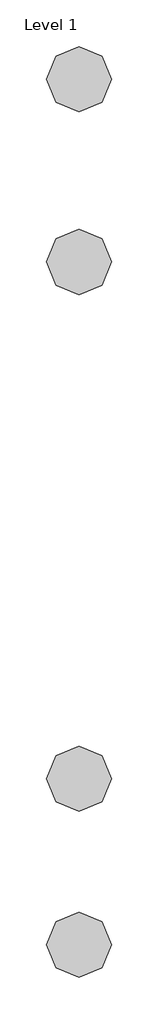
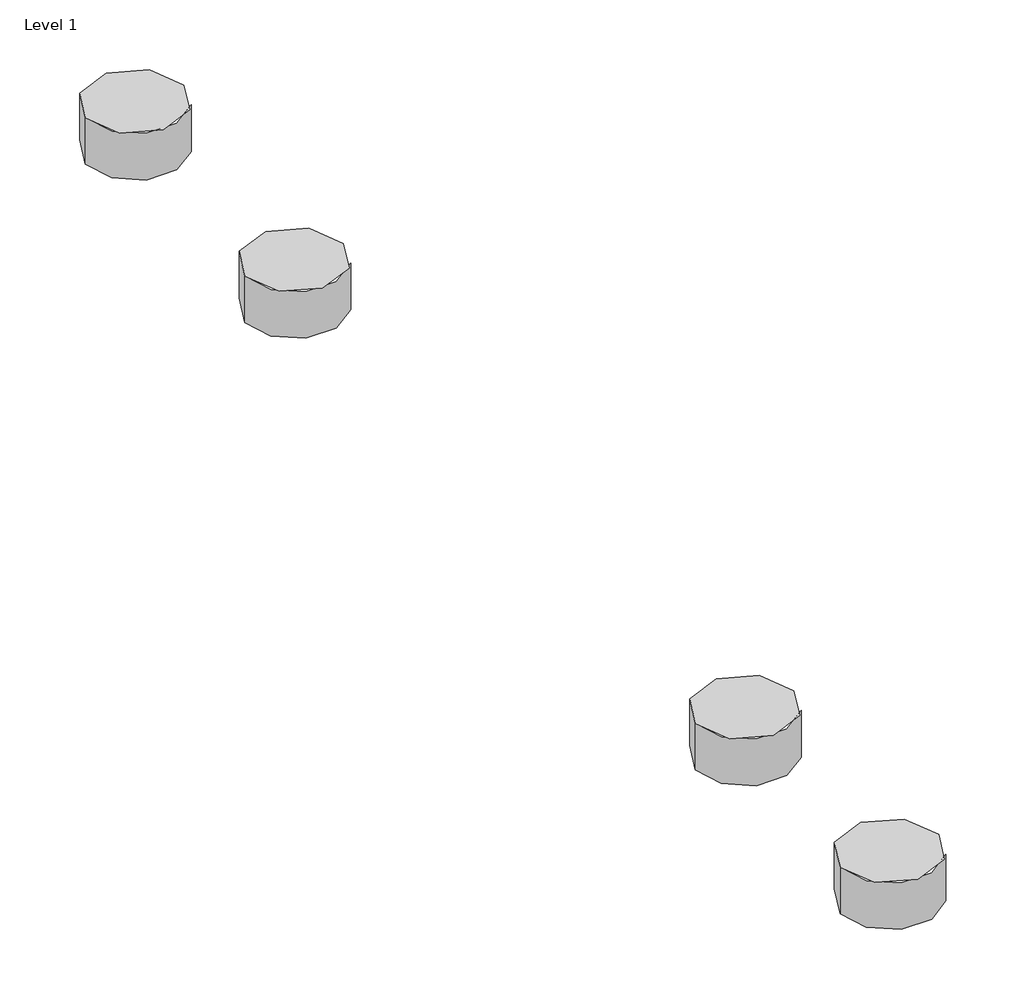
# One storey, incomplete: 4 proxies.
"""IFC4 building model written with IfcOpenShell, lengths in millimetres."""

from ifc_helpers import new_model, si_unit, origin, place, context, project, spatial, transform, mapped, element, save
from components import materialmodel_materialmodel_02e69005

model = new_model("IFC4")

# Units and contexts
model_context = context("Model", 3, world=origin())
ifc_project = project(units=[si_unit("LENGTHUNIT", "METRE", prefix="MILLI")], contexts=[model_context])

# Site, building, storey
site = spatial("IfcSite", under=ifc_project)
building = spatial("IfcBuilding", under=site)
storey = spatial("IfcBuildingStorey", under=building, Name="Level 1", Elevation=0.0)

# Proxies
placement = place(None, origin())
materialmodel_materialmodel_shape = materialmodel_materialmodel_02e69005(model_context)
element("IfcBuildingElementProxy", 1, Name="MaterialModel : MaterialModel", ObjectType="MaterialModel : MaterialModel", at=placement, inside=storey, context=model_context, shape_type="MappedRepresentation", body=[
    mapped(materialmodel_materialmodel_shape, transform((-5819.8812659, 3263.3808086, 0.0), x_axis=(1.0, 0.0, 0.0), y_axis=(0.0, 1.0, 0.0), z_axis=(0.0, 0.0, 1.0))),
])
element("IfcBuildingElementProxy", 2, Name="MaterialModel : MaterialModel", ObjectType="MaterialModel : MaterialModel", at=placement, inside=storey, context=model_context, shape_type="MappedRepresentation", body=[
    mapped(materialmodel_materialmodel_shape, transform((-5819.8812659, 3009.1264834, 0.0), x_axis=(1.0, 0.0, 0.0), y_axis=(0.0, 1.0, 0.0), z_axis=(0.0, 0.0, 1.0))),
])
element("IfcBuildingElementProxy", 3, Name="MaterialModel : MaterialModel", ObjectType="MaterialModel : MaterialModel", at=placement, inside=storey, context=model_context, shape_type="MappedRepresentation", body=[
    mapped(materialmodel_materialmodel_shape, transform((-5819.8812659, 4335.0513644, 0.0), x_axis=(1.0, 0.0, 0.0), y_axis=(0.0, 1.0, 0.0), z_axis=(0.0, 0.0, 1.0))),
])
element("IfcBuildingElementProxy", 4, Name="MaterialModel : MaterialModel", ObjectType="MaterialModel : MaterialModel", at=placement, inside=storey, context=model_context, shape_type="MappedRepresentation", body=[
    mapped(materialmodel_materialmodel_shape, transform((-5819.8812659, 4055.0513644, 0.0), x_axis=(1.0, 0.0, 0.0), y_axis=(0.0, 1.0, 0.0), z_axis=(0.0, 0.0, 1.0))),
])

save(model, "model.ifc")
